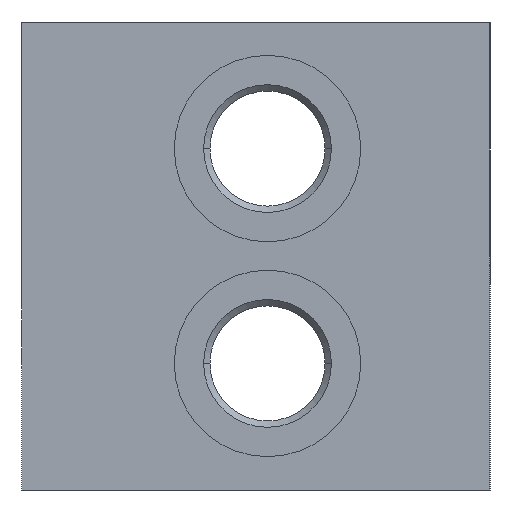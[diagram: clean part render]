
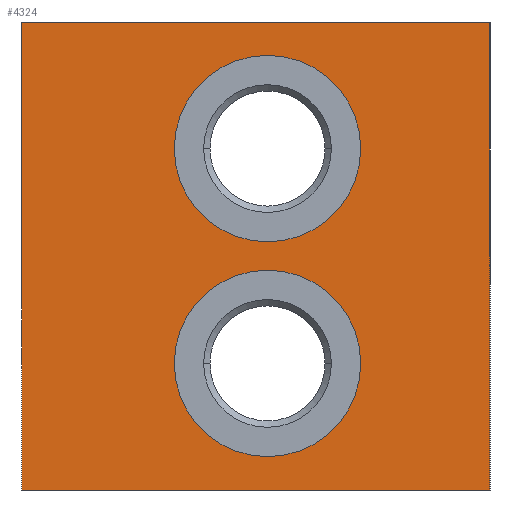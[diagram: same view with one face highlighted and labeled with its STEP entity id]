
A CAD part, left-side view. The second image highlights one B-rep face of the part: STEP entity #4324.
In plain terms, the highlighted planar face has unit normal (-1, 0, 0).
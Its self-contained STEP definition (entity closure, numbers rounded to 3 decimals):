
#25=DIRECTION('',(0.,-1.,0.));
#26=VECTOR('',#25,61.);
#27=CARTESIAN_POINT('',(0.,61.,0.));
#28=LINE('',#27,#26);
#117=DIRECTION('',(0.,0.,-1.));
#118=VECTOR('',#117,61.);
#119=CARTESIAN_POINT('',(0.,0.,0.));
#120=LINE('',#119,#118);
#869=DIRECTION('',(0.,0.,-1.));
#870=VECTOR('',#869,61.);
#871=CARTESIAN_POINT('',(0.,61.,0.));
#872=LINE('',#871,#870);
#873=CARTESIAN_POINT('',(0.,29.,-44.5));
#874=DIRECTION('',(1.,0.,0.));
#875=DIRECTION('',(0.,-1.,0.));
#876=AXIS2_PLACEMENT_3D('',#873,#874,#875);
#878=CARTESIAN_POINT('',(0.,29.,-44.5));
#879=DIRECTION('',(1.,0.,0.));
#880=DIRECTION('',(0.,1.,0.));
#881=AXIS2_PLACEMENT_3D('',#878,#879,#880);
#883=CARTESIAN_POINT('',(0.,29.,-16.5));
#884=DIRECTION('',(1.,0.,0.));
#885=DIRECTION('',(0.,-1.,0.));
#886=AXIS2_PLACEMENT_3D('',#883,#884,#885);
#888=CARTESIAN_POINT('',(0.,29.,-16.5));
#889=DIRECTION('',(1.,0.,0.));
#890=DIRECTION('',(0.,1.,0.));
#891=AXIS2_PLACEMENT_3D('',#888,#889,#890);
#905=DIRECTION('',(0.,-1.,0.));
#906=VECTOR('',#905,61.);
#907=CARTESIAN_POINT('',(0.,61.,-61.));
#908=LINE('',#907,#906);
#3335=CARTESIAN_POINT('',(0.,0.,0.));
#3337=VERTEX_POINT('',#3335);
#3341=CARTESIAN_POINT('',(0.,61.,0.));
#3342=VERTEX_POINT('',#3341);
#3343=CARTESIAN_POINT('',(0.,0.,-61.));
#3345=VERTEX_POINT('',#3343);
#3349=CARTESIAN_POINT('',(0.,61.,-61.));
#3350=VERTEX_POINT('',#3349);
#3363=CARTESIAN_POINT('',(0.,16.85,-44.5));
#3364=CARTESIAN_POINT('',(0.,41.15,-44.5));
#3365=VERTEX_POINT('',#3363);
#3366=VERTEX_POINT('',#3364);
#3379=CARTESIAN_POINT('',(0.,16.85,-16.5));
#3380=CARTESIAN_POINT('',(0.,41.15,-16.5));
#3381=VERTEX_POINT('',#3379);
#3382=VERTEX_POINT('',#3380);
#4300=CARTESIAN_POINT('',(0.,61.,0.));
#4301=DIRECTION('',(-1.,0.,0.));
#4302=DIRECTION('',(0.,-1.,0.));
#4303=AXIS2_PLACEMENT_3D('',#4300,#4301,#4302);
#4304=PLANE('',#4303);
#4305=ORIENTED_EDGE('',*,*,#3972,.T.);
#4306=ORIENTED_EDGE('',*,*,#4039,.T.);
#4308=ORIENTED_EDGE('',*,*,#4307,.F.);
#4309=ORIENTED_EDGE('',*,*,#4088,.F.);
#4310=EDGE_LOOP('',(#4305,#4306,#4308,#4309));
#4311=FACE_OUTER_BOUND('',#4310,.F.);
#4313=ORIENTED_EDGE('',*,*,#4312,.F.);
#4315=ORIENTED_EDGE('',*,*,#4314,.F.);
#4316=EDGE_LOOP('',(#4313,#4315));
#4317=FACE_BOUND('',#4316,.F.);
#4319=ORIENTED_EDGE('',*,*,#4318,.F.);
#4321=ORIENTED_EDGE('',*,*,#4320,.F.);
#4322=EDGE_LOOP('',(#4319,#4321));
#4323=FACE_BOUND('',#4322,.F.);
#877=CIRCLE('',#876,12.15);
#882=CIRCLE('',#881,12.15);
#887=CIRCLE('',#886,12.15);
#892=CIRCLE('',#891,12.15);
#3972=EDGE_CURVE('',#3342,#3337,#28,.T.);
#4039=EDGE_CURVE('',#3337,#3345,#120,.T.);
#4088=EDGE_CURVE('',#3342,#3350,#872,.T.);
#4307=EDGE_CURVE('',#3350,#3345,#908,.T.);
#4312=EDGE_CURVE('',#3365,#3366,#877,.T.);
#4314=EDGE_CURVE('',#3366,#3365,#882,.T.);
#4318=EDGE_CURVE('',#3381,#3382,#887,.T.);
#4320=EDGE_CURVE('',#3382,#3381,#892,.T.);
#4324=ADVANCED_FACE('',(#4311,#4317,#4323),#4304,.T.);
